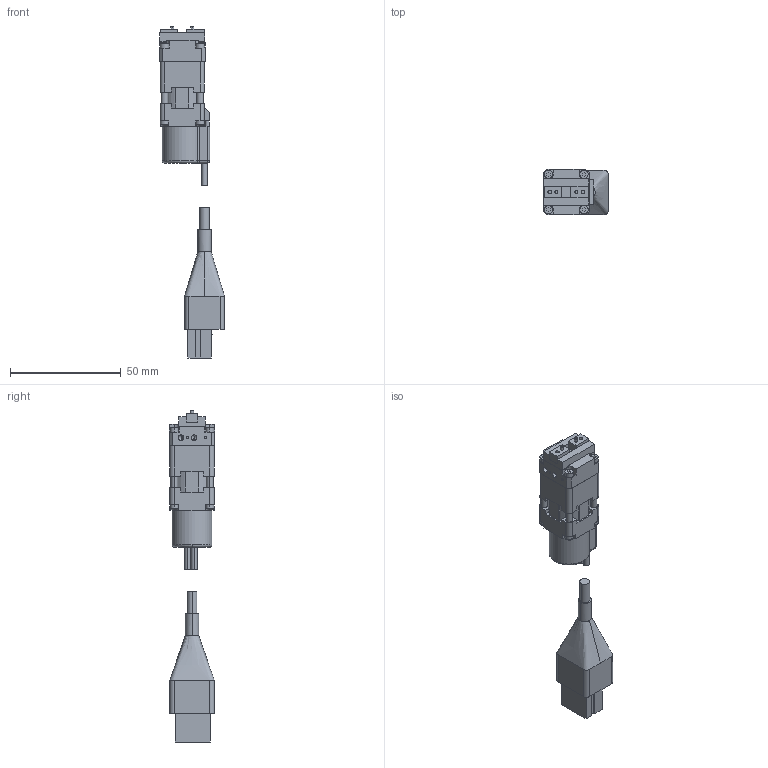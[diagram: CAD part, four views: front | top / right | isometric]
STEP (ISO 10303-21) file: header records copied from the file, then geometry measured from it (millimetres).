
FILE_DESCRIPTION (( 'STEP AP214' ), '1' );
FILE_NAME ('ESG1-SS-2005-3N.STEP', '2009-02-12T09:25:09', ( '風音庵' ), ( '' ), 'SwSTEP 2.0', 'SolidWorks 2007', '' );
FILE_SCHEMA (( 'AUTOMOTIVE_DESIGN' ));
Length unit declared in the file: millimetre
Products named in the file (6): ESG1-SS-2005-3N FINGER_蹬怮椔; ESG1-SS-2005-3N BODY_蹬怮椔; CNNECTOR丂BB丂ASSY_棉太倌; ESG1-SS-2005-3N; CONNECTOR COVER　BB_ﾃﾞﾌｫﾙﾄ; CONNECTOR　DK-2100D-12R_ﾃﾞﾌｫﾙﾄ
Assembly tree (6 placements, depth 3):
  ESG1-SS-2005-3N
    ESG1-SS-2005-3N FINGER_蹬怮椔  x2
    CNNECTOR丂BB丂ASSY_棉太倌
      CONNECTOR　DK-2100D-12R_ﾃﾞﾌｫﾙﾄ
      CONNECTOR COVER　BB_ﾃﾞﾌｫﾙﾄ
    ESG1-SS-2005-3N BODY_蹬怮椔
Bounding box: 29.25 x 20.5 x 149.69 mm (x, y, z)
Volume: 28695.8 mm3; surface area: 13421.5 mm2
Topology: 5 solids, 5 shells, 478 faces, 1236 edges, 800 vertices
Faces by surface type: plane 340, cylinder 106, cone 16, torus 12, bspline 2, sphere 2
Entity records: 18296 total; most frequent: CARTESIAN_POINT 2943, ORIENTED_EDGE 2404, DIRECTION 2368, EDGE_CURVE 1202, VECTOR 942, LINE 942, VERTEX_POINT 782, AXIS2_PLACEMENT_3D 713
